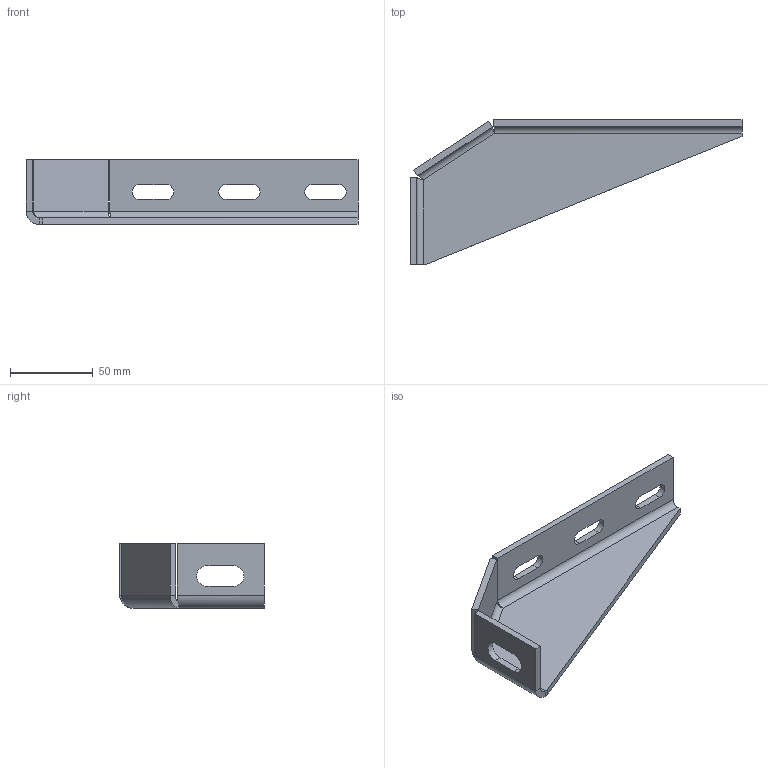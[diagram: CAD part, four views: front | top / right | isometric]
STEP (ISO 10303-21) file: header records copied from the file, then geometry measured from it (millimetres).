
FILE_DESCRIPTION (( 'STEP AP214' ), '1' );
FILE_NAME ('084.409.015.STEP', '2021-02-05T10:57:26', ( '' ), ( '' ), 'SwSTEP 2.0', 'SolidWorks 2018', '' );
FILE_SCHEMA (( 'AUTOMOTIVE_DESIGN' ));
Length unit declared in the file: millimetre
Products named in the file (1): 084.409.015
Bounding box: 200 x 87 x 39 mm (x, y, z)
Volume: 66463.9 mm3; surface area: 37070.8 mm2
Topology: 1 solids, 1 shells, 48 faces, 114 edges, 68 vertices
Faces by surface type: plane 30, cylinder 14, bspline 4
Entity records: 1680 total; most frequent: CARTESIAN_POINT 543, ORIENTED_EDGE 228, DIRECTION 216, EDGE_CURVE 114, VECTOR 86, LINE 86, VERTEX_POINT 68, AXIS2_PLACEMENT_3D 65
